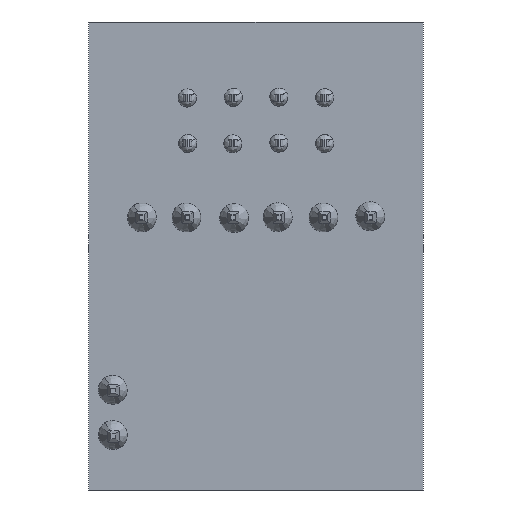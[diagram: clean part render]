
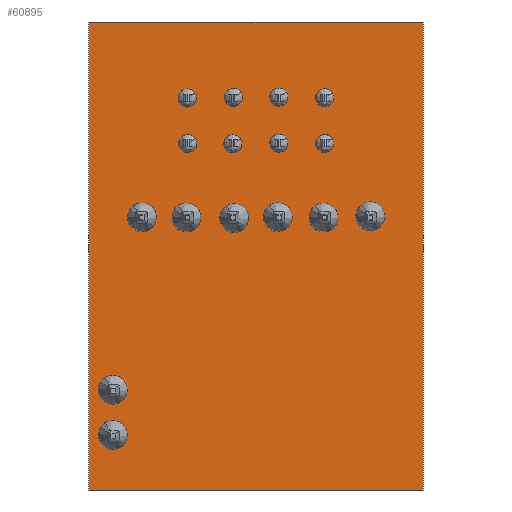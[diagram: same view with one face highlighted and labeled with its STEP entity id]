
A CAD part, front view. The second image highlights one B-rep face of the part: STEP entity #60895.
In plain terms, the highlighted planar face has unit normal (0, -1, 0).
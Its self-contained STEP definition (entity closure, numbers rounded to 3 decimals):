
#162 = CARTESIAN_POINT ( 'NONE',  ( 9.3, 0., -13. ) ) ;
#2149 = CARTESIAN_POINT ( 'NONE',  ( -9.3, 0., 13. ) ) ;
#5618 = VERTEX_POINT ( 'NONE', #16530 ) ;
#7254 = DIRECTION ( 'NONE',  ( -1., 0., 0. ) ) ;
#10070 = EDGE_LOOP ( 'NONE', ( #20340, #18531, #16789, #16371 ) ) ;
#16371 = ORIENTED_EDGE ( 'NONE', *, *, #43876, .F. ) ;
#16530 = CARTESIAN_POINT ( 'NONE',  ( 9.3, 0., 13. ) ) ;
#16789 = ORIENTED_EDGE ( 'NONE', *, *, #53422, .F. ) ;
#17531 = CARTESIAN_POINT ( 'NONE',  ( -9.3, 0., -13. ) ) ;
#18531 = ORIENTED_EDGE ( 'NONE', *, *, #35191, .F. ) ;
#20340 = ORIENTED_EDGE ( 'NONE', *, *, #26650, .F. ) ;
#21122 = VERTEX_POINT ( 'NONE', #162 ) ;
#24612 = VECTOR ( 'NONE', #56786, 1000. ) ;
#25570 = VECTOR ( 'NONE', #42310, 1000. ) ;
#25964 = LINE ( 'NONE', #41405, #57137 ) ;
#26650 = EDGE_CURVE ( 'NONE', #5618, #21122, #50457, .T. ) ;
#28365 = DIRECTION ( 'NONE',  ( 0., 0., -1. ) ) ;
#29890 = VERTEX_POINT ( 'NONE', #17531 ) ;
#35191 = EDGE_CURVE ( 'NONE', #53641, #5618, #47662, .T. ) ;
#37428 = CARTESIAN_POINT ( 'NONE',  ( -9.3, 0., 13. ) ) ;
#41405 = CARTESIAN_POINT ( 'NONE',  ( -9.3, 0., -13. ) ) ;
#41462 = CARTESIAN_POINT ( 'NONE',  ( -9.3, 0., 13. ) ) ;
#42310 = DIRECTION ( 'NONE',  ( 1., 0., 0. ) ) ;
#42517 = CARTESIAN_POINT ( 'NONE',  ( 9.3, 0., 13. ) ) ;
#43876 = EDGE_CURVE ( 'NONE', #21122, #29890, #25964, .T. ) ;
#47272 = LINE ( 'NONE', #41462, #54849 ) ;
#47662 = LINE ( 'NONE', #37428, #25570 ) ;
#50457 = LINE ( 'NONE', #42517, #24612 ) ;
#53422 = EDGE_CURVE ( 'NONE', #29890, #53641, #47272, .T. ) ;
#53641 = VERTEX_POINT ( 'NONE', #2149 ) ;
#54845 = AXIS2_PLACEMENT_3D ( 'NONE', #57000, #62499, #28365 ) ;
#54849 = VECTOR ( 'NONE', #55927, 1000. ) ;
#55927 = DIRECTION ( 'NONE',  ( 0., 0., 1. ) ) ;
#56786 = DIRECTION ( 'NONE',  ( 0., 0., -1. ) ) ;
#57000 = CARTESIAN_POINT ( 'NONE',  ( 0., 0., 0. ) ) ;
#57137 = VECTOR ( 'NONE', #7254, 1000. ) ;
#57443 = PLANE ( 'NONE',  #54845 ) ;
#60895 = ADVANCED_FACE ( 'NONE', ( #61568 ), #57443, .T. ) ;
#61568 = FACE_OUTER_BOUND ( 'NONE', #10070, .T. ) ;
#62499 = DIRECTION ( 'NONE',  ( 0., -1., 0. ) ) ;
